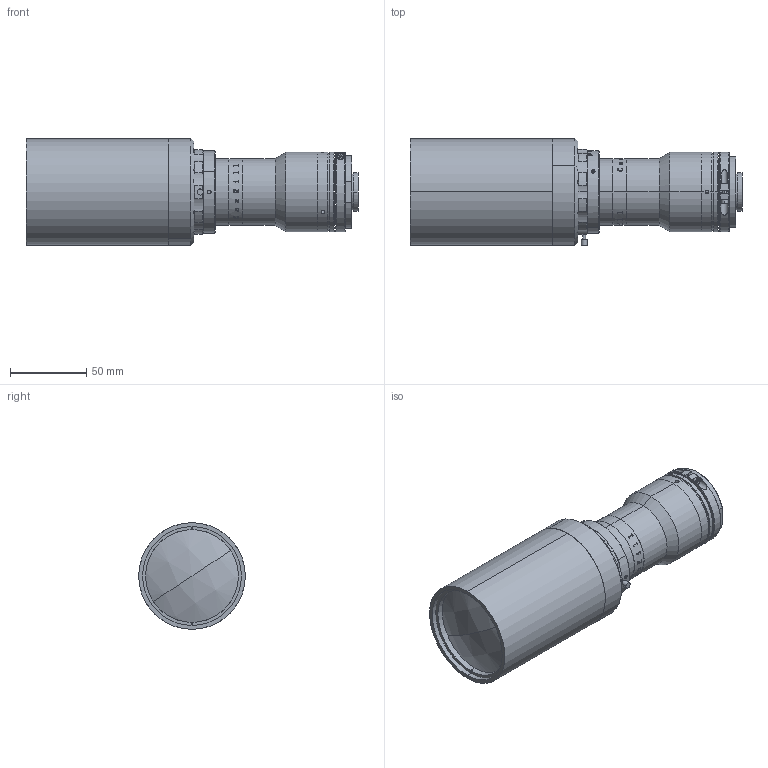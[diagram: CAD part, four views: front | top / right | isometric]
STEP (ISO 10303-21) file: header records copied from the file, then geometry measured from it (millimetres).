
FILE_DESCRIPTION (( 'STEP AP203' ), '1' );
FILE_NAME ('XF-PTL04523-C-VI.STEP', '2020-05-09T01:29:47', ( 'puyufan' ), ( '' ), 'SwSTEP 2.0', 'SolidWorks 2014', '' );
FILE_SCHEMA (( 'CONFIG_CONTROL_DESIGN' ));
Length unit declared in the file: millimetre
Products named in the file (1): XF-PTL04523-C-VI
Bounding box: 218.13 x 70 x 70 mm (x, y, z)
Surface area: 61524.5 mm2 (no closed solid volume)
Topology: 0 solids, 41 shells, 247 faces, 1262 edges, 1047 vertices
Faces by surface type: cylinder 119, plane 77, cone 31, torus 10, bspline 6, sphere 4
Entity records: 20566 total; most frequent: CARTESIAN_POINT 11199, DIRECTION 1786, ORIENTED_EDGE 1694, EDGE_CURVE 1260, VERTEX_POINT 1047, AXIS2_PLACEMENT_3D 691, CIRCLE 449, B_SPLINE_CURVE_WITH_KNOTS 407
